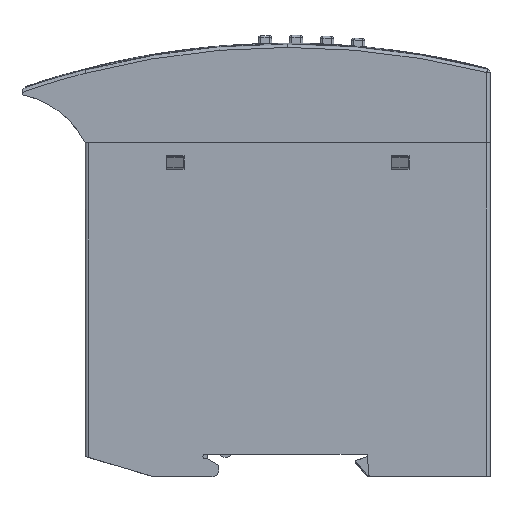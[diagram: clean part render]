
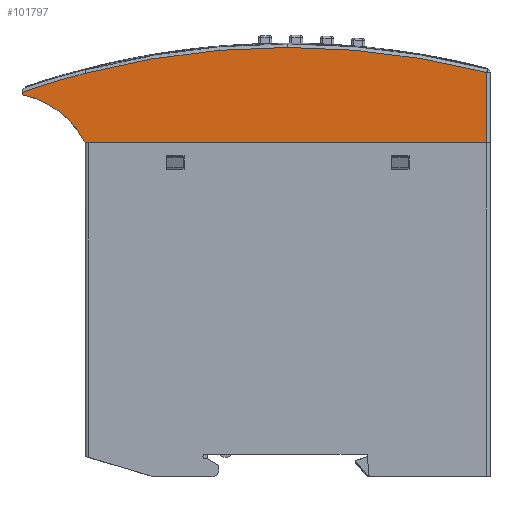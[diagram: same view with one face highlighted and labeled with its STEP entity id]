
A CAD part, left-side view. The second image highlights one B-rep face of the part: STEP entity #101797.
In plain terms, the highlighted planar face has unit normal (-1, 0, 0).
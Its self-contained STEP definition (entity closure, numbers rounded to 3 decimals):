
#1553 = AXIS2_PLACEMENT_3D ( 'NONE', #63455, #52421, #38566 ) ;
#4521 = ORIENTED_EDGE ( 'NONE', *, *, #169567, .T. ) ;
#5636 = CARTESIAN_POINT ( 'NONE',  ( -22.5, 90., 15.461 ) ) ;
#6363 = LINE ( 'NONE', #62760, #66016 ) ;
#9062 = DIRECTION ( 'NONE',  ( 0., 0., 1. ) ) ;
#11803 = PLANE ( 'NONE',  #58663 ) ;
#13571 = EDGE_CURVE ( 'NONE', #178357, #89826, #81282, .T. ) ;
#19666 = ORIENTED_EDGE ( 'NONE', *, *, #130727, .T. ) ;
#21286 = CARTESIAN_POINT ( 'NONE',  ( -22.5, 90.001, 0. ) ) ;
#21389 = AXIS2_PLACEMENT_3D ( 'NONE', #140042, #86166, #87097 ) ;
#22610 = EDGE_CURVE ( 'NONE', #103696, #52712, #6363, .T. ) ;
#36524 = DIRECTION ( 'NONE',  ( 0., 0., 1. ) ) ;
#37607 = CARTESIAN_POINT ( 'NONE',  ( -22.5, 89.3, 0. ) ) ;
#37718 = EDGE_LOOP ( 'NONE', ( #105854, #47334, #142924, #19666, #60464, #60859, #125057, #4521 ) ) ;
#38360 = CARTESIAN_POINT ( 'NONE',  ( -22.5, 0.7, 15.641 ) ) ;
#38566 = DIRECTION ( 'NONE',  ( 0., 0., 1. ) ) ;
#40366 = DIRECTION ( 'NONE',  ( 0., -1., 0. ) ) ;
#43617 = DIRECTION ( 'NONE',  ( -1., 0., 0. ) ) ;
#47034 = LINE ( 'NONE', #103490, #97700 ) ;
#47334 = ORIENTED_EDGE ( 'NONE', *, *, #145768, .F. ) ;
#50268 = CARTESIAN_POINT ( 'NONE',  ( -22.5, 45., -158.1 ) ) ;
#51641 = FACE_OUTER_BOUND ( 'NONE', #37718, .T. ) ;
#52421 = DIRECTION ( 'NONE',  ( 1., 0., 0. ) ) ;
#52712 = VERTEX_POINT ( 'NONE', #156471 ) ;
#53916 = DIRECTION ( 'NONE',  ( 0., 0., 1. ) ) ;
#58663 = AXIS2_PLACEMENT_3D ( 'NONE', #164570, #68140, #9062 ) ;
#60464 = ORIENTED_EDGE ( 'NONE', *, *, #22610, .T. ) ;
#60859 = ORIENTED_EDGE ( 'NONE', *, *, #81379, .F. ) ;
#62760 = CARTESIAN_POINT ( 'NONE',  ( -22.5, 104., 10.685 ) ) ;
#63455 = CARTESIAN_POINT ( 'NONE',  ( -22.5, 45., -158.1 ) ) ;
#66016 = VECTOR ( 'NONE', #175776, 1000. ) ;
#67107 = EDGE_CURVE ( 'NONE', #169109, #153579, #47034, .T. ) ;
#68140 = DIRECTION ( 'NONE',  ( -1., 0., 0. ) ) ;
#76857 = VECTOR ( 'NONE', #36524, 1000. ) ;
#81282 = CIRCLE ( 'NONE', #1553, 179.3 ) ;
#81379 = EDGE_CURVE ( 'NONE', #169109, #52712, #133804, .T. ) ;
#86166 = DIRECTION ( 'NONE',  ( -1., 0., 0. ) ) ;
#87097 = DIRECTION ( 'NONE',  ( 0., 0., 1. ) ) ;
#88850 = DIRECTION ( 'NONE',  ( 0., 0., 1. ) ) ;
#89826 = VERTEX_POINT ( 'NONE', #106074 ) ;
#97700 = VECTOR ( 'NONE', #130436, 1000. ) ;
#101797 = ADVANCED_FACE ( 'NONE', ( #51641 ), #11803, .T. ) ;
#103490 = CARTESIAN_POINT ( 'NONE',  ( -22.5, 90.071, 8.081 ) ) ;
#103696 = VERTEX_POINT ( 'NONE', #139754 ) ;
#104143 = CIRCLE ( 'NONE', #116112, 179.3 ) ;
#105854 = ORIENTED_EDGE ( 'NONE', *, *, #165561, .T. ) ;
#106074 = CARTESIAN_POINT ( 'NONE',  ( -22.5, 45., 21.2 ) ) ;
#108176 = VECTOR ( 'NONE', #40366, 1000. ) ;
#112244 = AXIS2_PLACEMENT_3D ( 'NONE', #129718, #43617, #88850 ) ;
#115950 = CARTESIAN_POINT ( 'NONE',  ( -22.5, 0.7, 0. ) ) ;
#116018 = VERTEX_POINT ( 'NONE', #38360 ) ;
#116112 = AXIS2_PLACEMENT_3D ( 'NONE', #50268, #124316, #53916 ) ;
#124316 = DIRECTION ( 'NONE',  ( 1., 0., 0. ) ) ;
#125057 = ORIENTED_EDGE ( 'NONE', *, *, #67107, .T. ) ;
#127080 = CIRCLE ( 'NONE', #112244, 179.3 ) ;
#129718 = CARTESIAN_POINT ( 'NONE',  ( -22.5, 45., -158.1 ) ) ;
#130436 = DIRECTION ( 'NONE',  ( 0., -0.009, -1. ) ) ;
#130727 = EDGE_CURVE ( 'NONE', #178357, #103696, #127080, .T. ) ;
#132175 = CARTESIAN_POINT ( 'NONE',  ( -22.5, 0.7, 8.474 ) ) ;
#133804 = CIRCLE ( 'NONE', #21389, 20. ) ;
#136503 = LINE ( 'NONE', #132175, #76857 ) ;
#139754 = CARTESIAN_POINT ( 'NONE',  ( -22.5, 104.005, 11.213 ) ) ;
#140042 = CARTESIAN_POINT ( 'NONE',  ( -22.5, 107.895, -8.932 ) ) ;
#142924 = ORIENTED_EDGE ( 'NONE', *, *, #13571, .F. ) ;
#145768 = EDGE_CURVE ( 'NONE', #89826, #116018, #104143, .T. ) ;
#151474 = LINE ( 'NONE', #37607, #108176 ) ;
#152220 = VERTEX_POINT ( 'NONE', #115950 ) ;
#153579 = VERTEX_POINT ( 'NONE', #21286 ) ;
#155745 = CARTESIAN_POINT ( 'NONE',  ( -22.5, 90.001, 0.002 ) ) ;
#156471 = CARTESIAN_POINT ( 'NONE',  ( -22.5, 104., 10.685 ) ) ;
#164570 = CARTESIAN_POINT ( 'NONE',  ( -22.5, 45., 8.474 ) ) ;
#165561 = EDGE_CURVE ( 'NONE', #152220, #116018, #136503, .T. ) ;
#169109 = VERTEX_POINT ( 'NONE', #155745 ) ;
#169567 = EDGE_CURVE ( 'NONE', #153579, #152220, #151474, .T. ) ;
#175776 = DIRECTION ( 'NONE',  ( 0., -0.009, -1. ) ) ;
#178357 = VERTEX_POINT ( 'NONE', #5636 ) ;
